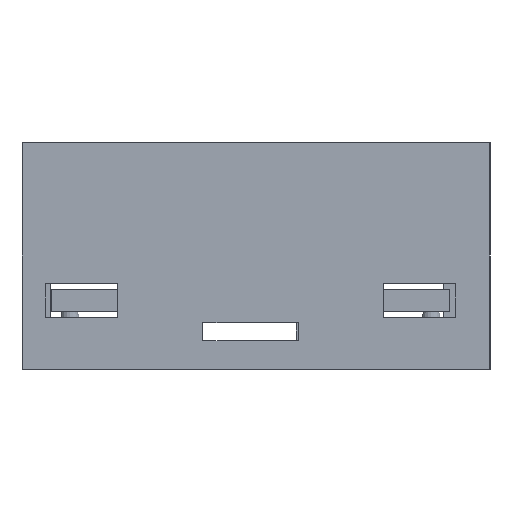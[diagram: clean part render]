
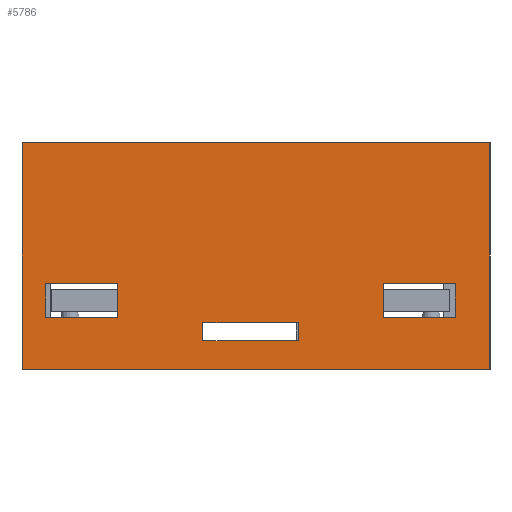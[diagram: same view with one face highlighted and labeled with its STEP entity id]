
A CAD part, left-side view. The second image highlights one B-rep face of the part: STEP entity #5786.
In plain terms, the highlighted planar face has unit normal (-1, 0, 0).
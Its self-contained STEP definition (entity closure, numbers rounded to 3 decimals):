
#2368 = EDGE_CURVE('',#2369,#2371,#2373,.T.);
#2369 = VERTEX_POINT('',#2370);
#2370 = CARTESIAN_POINT('',(0.,0.,30.7));
#2371 = VERTEX_POINT('',#2372);
#2372 = CARTESIAN_POINT('',(0.,63.5,30.7));
#2373 = LINE('',#2374,#2375);
#2374 = CARTESIAN_POINT('',(0.,0.,30.7));
#2375 = VECTOR('',#2376,1.);
#2376 = DIRECTION('',(0.,1.,0.));
#2433 = EDGE_CURVE('',#2434,#2436,#2438,.T.);
#2434 = VERTEX_POINT('',#2435);
#2435 = CARTESIAN_POINT('',(0.,0.,0.));
#2436 = VERTEX_POINT('',#2437);
#2437 = CARTESIAN_POINT('',(0.,63.5,0.));
#2438 = LINE('',#2439,#2440);
#2439 = CARTESIAN_POINT('',(0.,0.,0.));
#2440 = VECTOR('',#2441,1.);
#2441 = DIRECTION('',(0.,1.,0.));
#5786 = ADVANCED_FACE('',(#5787,#5803,#5837,#5871),#5905,.T.);
#5787 = FACE_BOUND('',#5788,.T.);
#5788 = EDGE_LOOP('',(#5789,#5795,#5796,#5802));
#5789 = ORIENTED_EDGE('',*,*,#5790,.T.);
#5790 = EDGE_CURVE('',#2434,#2369,#5791,.T.);
#5791 = LINE('',#5792,#5793);
#5792 = CARTESIAN_POINT('',(0.,0.,0.));
#5793 = VECTOR('',#5794,1.);
#5794 = DIRECTION('',(0.,0.,1.));
#5795 = ORIENTED_EDGE('',*,*,#2368,.T.);
#5796 = ORIENTED_EDGE('',*,*,#5797,.F.);
#5797 = EDGE_CURVE('',#2436,#2371,#5798,.T.);
#5798 = LINE('',#5799,#5800);
#5799 = CARTESIAN_POINT('',(0.,63.5,0.));
#5800 = VECTOR('',#5801,1.);
#5801 = DIRECTION('',(0.,0.,1.));
#5802 = ORIENTED_EDGE('',*,*,#2433,.F.);
#5803 = FACE_BOUND('',#5804,.T.);
#5804 = EDGE_LOOP('',(#5805,#5815,#5823,#5831));
#5805 = ORIENTED_EDGE('',*,*,#5806,.F.);
#5806 = EDGE_CURVE('',#5807,#5809,#5811,.T.);
#5807 = VERTEX_POINT('',#5808);
#5808 = CARTESIAN_POINT('',(0.,50.5,7.));
#5809 = VERTEX_POINT('',#5810);
#5810 = CARTESIAN_POINT('',(0.,50.5,11.6));
#5811 = LINE('',#5812,#5813);
#5812 = CARTESIAN_POINT('',(0.,50.5,12.325));
#5813 = VECTOR('',#5814,1.);
#5814 = DIRECTION('',(0.,0.,1.));
#5815 = ORIENTED_EDGE('',*,*,#5816,.F.);
#5816 = EDGE_CURVE('',#5817,#5807,#5819,.T.);
#5817 = VERTEX_POINT('',#5818);
#5818 = CARTESIAN_POINT('',(0.,60.3,7.));
#5819 = LINE('',#5820,#5821);
#5820 = CARTESIAN_POINT('',(0.,43.575,7.));
#5821 = VECTOR('',#5822,1.);
#5822 = DIRECTION('',(0.,-1.,0.));
#5823 = ORIENTED_EDGE('',*,*,#5824,.F.);
#5824 = EDGE_CURVE('',#5825,#5817,#5827,.T.);
#5825 = VERTEX_POINT('',#5826);
#5826 = CARTESIAN_POINT('',(0.,60.3,11.6));
#5827 = LINE('',#5828,#5829);
#5828 = CARTESIAN_POINT('',(0.,60.3,12.325));
#5829 = VECTOR('',#5830,1.);
#5830 = DIRECTION('',(0.,0.,-1.));
#5831 = ORIENTED_EDGE('',*,*,#5832,.F.);
#5832 = EDGE_CURVE('',#5809,#5825,#5833,.T.);
#5833 = LINE('',#5834,#5835);
#5834 = CARTESIAN_POINT('',(0.,43.575,11.6));
#5835 = VECTOR('',#5836,1.);
#5836 = DIRECTION('',(0.,1.,0.));
#5837 = FACE_BOUND('',#5838,.T.);
#5838 = EDGE_LOOP('',(#5839,#5849,#5857,#5865));
#5839 = ORIENTED_EDGE('',*,*,#5840,.F.);
#5840 = EDGE_CURVE('',#5841,#5843,#5845,.T.);
#5841 = VERTEX_POINT('',#5842);
#5842 = CARTESIAN_POINT('',(0.,4.7,7.));
#5843 = VERTEX_POINT('',#5844);
#5844 = CARTESIAN_POINT('',(0.,4.7,11.6));
#5845 = LINE('',#5846,#5847);
#5846 = CARTESIAN_POINT('',(0.,4.7,12.325));
#5847 = VECTOR('',#5848,1.);
#5848 = DIRECTION('',(0.,0.,1.));
#5849 = ORIENTED_EDGE('',*,*,#5850,.F.);
#5850 = EDGE_CURVE('',#5851,#5841,#5853,.T.);
#5851 = VERTEX_POINT('',#5852);
#5852 = CARTESIAN_POINT('',(0.,14.5,7.));
#5853 = LINE('',#5854,#5855);
#5854 = CARTESIAN_POINT('',(0.,20.675,7.));
#5855 = VECTOR('',#5856,1.);
#5856 = DIRECTION('',(0.,-1.,0.));
#5857 = ORIENTED_EDGE('',*,*,#5858,.F.);
#5858 = EDGE_CURVE('',#5859,#5851,#5861,.T.);
#5859 = VERTEX_POINT('',#5860);
#5860 = CARTESIAN_POINT('',(0.,14.5,11.6));
#5861 = LINE('',#5862,#5863);
#5862 = CARTESIAN_POINT('',(0.,14.5,12.325));
#5863 = VECTOR('',#5864,1.);
#5864 = DIRECTION('',(0.,0.,-1.));
#5865 = ORIENTED_EDGE('',*,*,#5866,.F.);
#5866 = EDGE_CURVE('',#5843,#5859,#5867,.T.);
#5867 = LINE('',#5868,#5869);
#5868 = CARTESIAN_POINT('',(0.,20.675,11.6));
#5869 = VECTOR('',#5870,1.);
#5870 = DIRECTION('',(0.,1.,0.));
#5871 = FACE_BOUND('',#5872,.T.);
#5872 = EDGE_LOOP('',(#5873,#5883,#5891,#5899));
#5873 = ORIENTED_EDGE('',*,*,#5874,.F.);
#5874 = EDGE_CURVE('',#5875,#5877,#5879,.T.);
#5875 = VERTEX_POINT('',#5876);
#5876 = CARTESIAN_POINT('',(0.,26.,6.3));
#5877 = VERTEX_POINT('',#5878);
#5878 = CARTESIAN_POINT('',(0.,38.95,6.3));
#5879 = LINE('',#5880,#5881);
#5880 = CARTESIAN_POINT('',(0.,28.875,6.3));
#5881 = VECTOR('',#5882,1.);
#5882 = DIRECTION('',(0.,1.,0.));
#5883 = ORIENTED_EDGE('',*,*,#5884,.T.);
#5884 = EDGE_CURVE('',#5875,#5885,#5887,.T.);
#5885 = VERTEX_POINT('',#5886);
#5886 = CARTESIAN_POINT('',(0.,26.,3.85));
#5887 = LINE('',#5888,#5889);
#5888 = CARTESIAN_POINT('',(0.,26.,9.6));
#5889 = VECTOR('',#5890,1.);
#5890 = DIRECTION('',(0.,0.,-1.));
#5891 = ORIENTED_EDGE('',*,*,#5892,.T.);
#5892 = EDGE_CURVE('',#5885,#5893,#5895,.T.);
#5893 = VERTEX_POINT('',#5894);
#5894 = CARTESIAN_POINT('',(0.,38.95,3.85));
#5895 = LINE('',#5896,#5897);
#5896 = CARTESIAN_POINT('',(0.,28.875,3.85));
#5897 = VECTOR('',#5898,1.);
#5898 = DIRECTION('',(0.,1.,0.));
#5899 = ORIENTED_EDGE('',*,*,#5900,.F.);
#5900 = EDGE_CURVE('',#5877,#5893,#5901,.T.);
#5901 = LINE('',#5902,#5903);
#5902 = CARTESIAN_POINT('',(0.,38.95,9.6));
#5903 = VECTOR('',#5904,1.);
#5904 = DIRECTION('',(0.,0.,-1.));
#5905 = PLANE('',#5906);
#5906 = AXIS2_PLACEMENT_3D('',#5907,#5908,#5909);
#5907 = CARTESIAN_POINT('',(0.,31.75,15.35));
#5908 = DIRECTION('',(-1.,-0.,-0.));
#5909 = DIRECTION('',(0.,0.,-1.));
